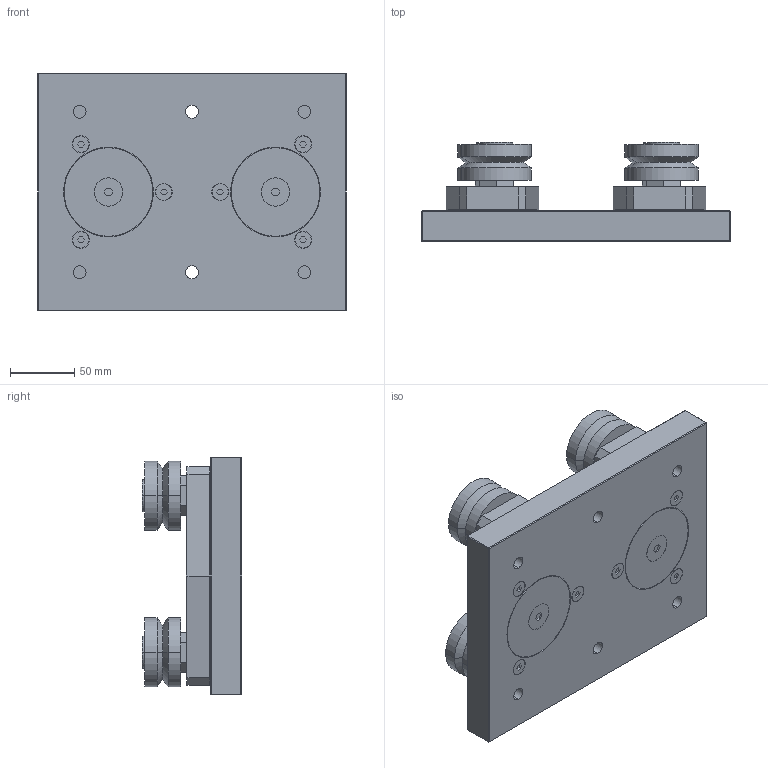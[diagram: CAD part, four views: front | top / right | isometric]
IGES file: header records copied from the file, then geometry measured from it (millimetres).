
Start section: 3D InterOp IGES (v. 2020 1.0.1), Spatial Corp. Copyright (c) 1999-2017.
Global section: file name: bcp76.igs; native system: Spatial Corp.; preprocessor: 3D InterOp ACIS/IGES; author: TraceParts; organization: TraceParts S.A.; date: 20220627.084355; units: millimetre
Bounding box: 240 x 77.25 x 185 mm (x, y, z)
Surface area: 218781.9 mm2 (no closed solid volume)
Topology: 0 solids, 0 shells, 312 faces, 1440 edges, 1440 vertices
Faces by surface type: extrusion 208, revolution 104
